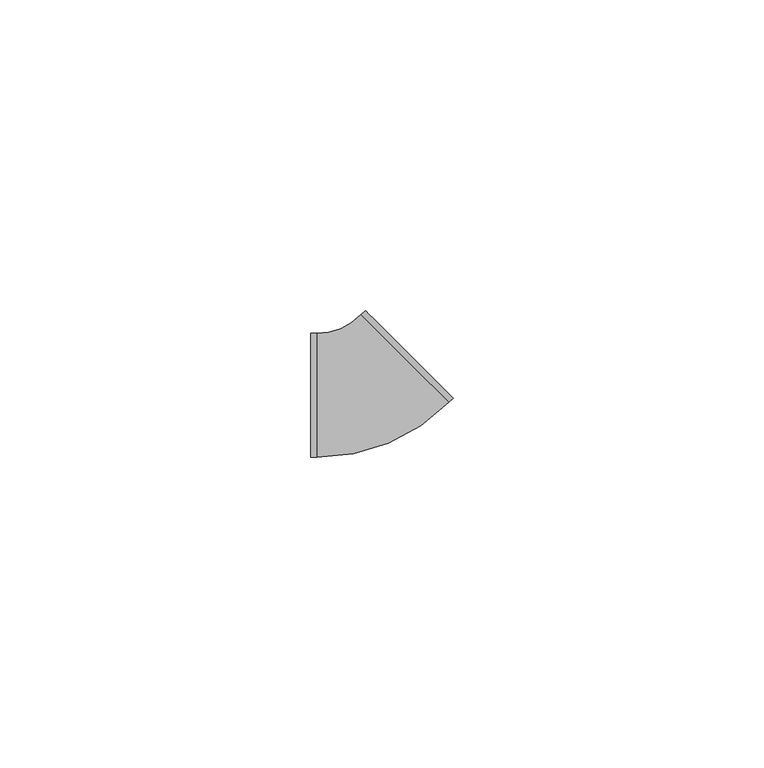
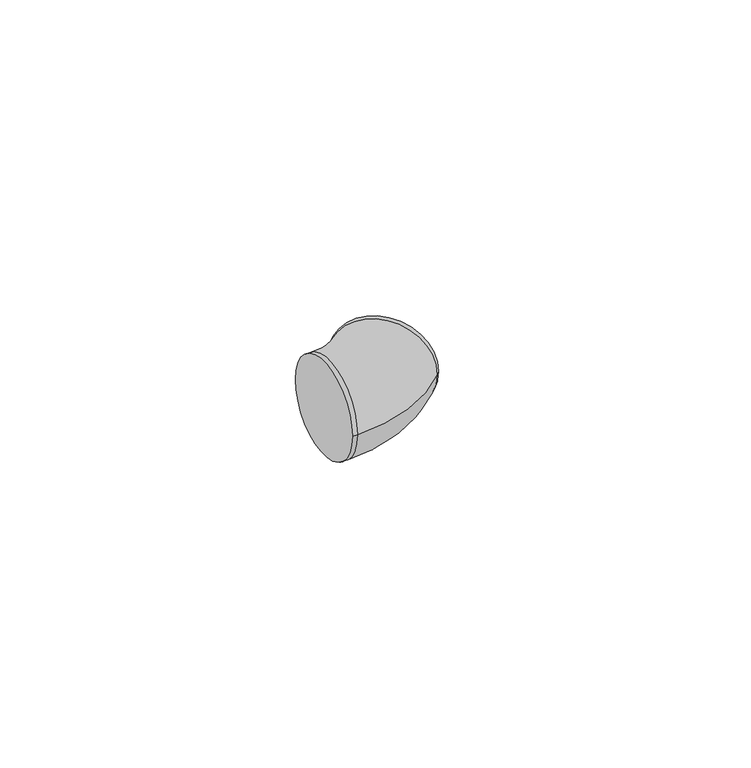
"""IFC4 building model written with IfcOpenShell, lengths in millimetres: cable carrier fitting geometry, ADSK_Поворот_Минимальный размер : Неспецифицируемый."""

from ifc_helpers import new_model, si_unit, point, frame, origin, place, context, project, spatial, circle_curve, ellipse_curve, trimmed, source, transform, mapped, element, save
from ifc_brep_helpers import plane_surface, cylinder_surface, revolved_surface, advanced_brep


def cable_carrier_fitting_96c62671(model_context):
    return source(origin(), model_context, "Body", "AdvancedBrep", [
        advanced_brep(
        [(-9.3246496, -10.0, 0.0), (-9.3246496, 10.0, 0.0), (-8.3246496, -10.0, 0.0), (-8.3246496, 10.0, 0.0), (-1.2292707, 12.9533271, 0.0), (12.9614871, -1.1400186, 0.0), (13.6661544, -0.4304807, 0.0), (-0.5246034, 13.662865, 0.0)],
        [
            (0, 1, circle_curve(frame((-9.3246496, 0.0, 0.0), z_axis=(-1.0, -4.92260399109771e-12, 0.0), x_axis=(-4.92260399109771e-12, 1.0, 0.0)), 10.0)),
            (1, 0, circle_curve(frame((-9.3246496, 0.0, 0.0), z_axis=(-1.0, -4.92260399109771e-12, 0.0), x_axis=(-4.92260399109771e-12, 1.0, 0.0)), 10.0)),
            (0, 2),
            (2, 3, circle_curve(frame((-8.3246496, 0.0, 0.0), z_axis=(-1.0, -4.92260399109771e-12, 0.0), x_axis=(-4.92260399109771e-12, 1.0, 0.0)), 10.0)),
            (3, 1),
            (3, 2, circle_curve(frame((-8.3246496, 0.0, 0.0), z_axis=(-1.0, -4.92260399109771e-12, 0.0), x_axis=(-4.92260399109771e-12, 1.0, 0.0)), 10.0)),
            (4, 3, circle_curve(frame((-8.3246496, 20.0, 0.0), z_axis=(0.0, 0.0, -1.0), x_axis=(0.0, -1.0, 0.0)), 10.0)),
            (2, 5, circle_curve(frame((-8.3246496, 20.0, 0.0), z_axis=(0.0, 0.0, 1.0), x_axis=(0.0, -1.0, 0.0)), 30.0)),
            (5, 4, circle_curve(frame((5.8661082, 5.9066543, 0.0), z_axis=(-0.704667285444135, -0.7095378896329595, 0.0), x_axis=(-0.7095378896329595, 0.704667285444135, 0.0)), 10.0)),
            (4, 5, circle_curve(frame((5.8661082, 5.9066543, 0.0), z_axis=(-0.704667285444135, -0.7095378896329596, 0.0), x_axis=(-0.7095378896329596, 0.704667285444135, 0.0)), 10.0)),
            (6, 7, circle_curve(frame((6.5707755, 6.6161922, 0.0), z_axis=(0.7046672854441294, 0.7095378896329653, 0.0), x_axis=(-0.7095378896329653, 0.7046672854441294, 0.0)), 10.0)),
            (7, 6, circle_curve(frame((6.5707755, 6.6161922, 0.0), z_axis=(0.7046672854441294, 0.7095378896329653, 0.0), x_axis=(-0.7095378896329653, 0.7046672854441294, 0.0)), 10.0)),
            (5, 6),
            (7, 4),
        ],
        [
            plane_surface(frame((-9.3246496, 0.0, 0.0), z_axis=(-1.0, -4.92260399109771e-12, 0.0), x_axis=(0.0, 0.0, 1.0))),
            cylinder_surface(frame((-9.3246496, 0.0, 0.0), z_axis=(-1.0, -4.92260399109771e-12, 0.0), x_axis=(-4.92260399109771e-12, 1.0, 0.0)), 10.0),
            revolved_surface(trimmed(ellipse_curve(frame((-8.3246496, 0.0, 0.0), z_axis=(-1.0, 0.0, 0.0), x_axis=(0.0, 1.0, 0.0)), 10.0, 10.0), [point((-8.3246496, -10.0, 0.0))], [point((-8.3246496, 10.0, 0.0))], True, "CARTESIAN"), (-8.3246496, 20.0, 0.0), (0.0, 0.0, 1.0)),
            revolved_surface(trimmed(ellipse_curve(frame((-8.3246496, 0.0, 0.0), z_axis=(-1.0, 0.0, 0.0), x_axis=(0.0, 1.0, 0.0)), 10.0, 10.0), [point((-8.3246496, 10.0, 0.0))], [point((-8.3246496, -10.0, 0.0))], True, "CARTESIAN"), (-8.3246496, 20.0, 0.0), (0.0, 0.0, 1.0)),
            plane_surface(frame((6.5707755, 6.6161922, 0.0), z_axis=(0.7046672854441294, 0.7095378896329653, 0.0), x_axis=(0.0, 0.0, 1.0))),
            cylinder_surface(frame((5.8661082, 5.9066543, 0.0), z_axis=(-0.7046672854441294, -0.7095378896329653, 0.0), x_axis=(-0.7095378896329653, 0.7046672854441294, 0.0)), 10.0),
        ],
        [
            (0, [[1, 2]]),
            (1, [[-1, 3, 4, 5]]),
            (1, [[-2, -5, 6, -3]]),
            (2, [[7, -4, 8, 9]]),
            (3, [[-8, -6, -7, 10]]),
            (4, [[11, 12]]),
            (5, [[-9, 13, -12, 14]]),
            (5, [[-10, -14, -11, -13]]),
        ],
    ),
    ])


if __name__ == "__main__":
    model = new_model("IFC4")
    model_context = context("Model", 3, world=origin())
    ifc_project = project(units=[si_unit("LENGTHUNIT", "METRE", prefix="MILLI")], contexts=[model_context])
    site = spatial("IfcSite", under=ifc_project)
    building = spatial("IfcBuilding", under=site)
    placement = place(None, origin())
    cable_carrier_fitting_shape = cable_carrier_fitting_96c62671(model_context)
    element("IfcCableCarrierFitting", 1, ObjectType="ADSK_Поворот_Минимальный размер : Неспецифицируемый", at=placement, inside=building, context=model_context, shape_type="MappedRepresentation", body=[
        mapped(cable_carrier_fitting_shape, transform((0.0, 0.0, 0.0), x_axis=(1.0, 0.0, 0.0), y_axis=(0.0, 1.0, 0.0), z_axis=(0.0, 0.0, 1.0))),
    ])
    save(model, "model.ifc")
